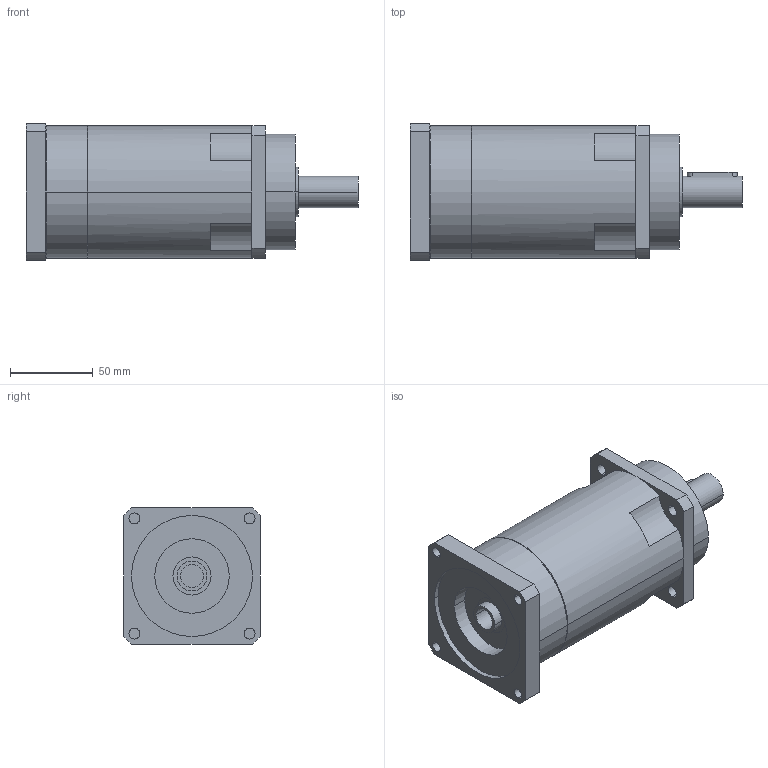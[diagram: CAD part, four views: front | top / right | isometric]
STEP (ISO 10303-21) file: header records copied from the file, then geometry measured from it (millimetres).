
FILE_DESCRIPTION(('CoCreate Modeling STEP Export'),'2;1');
FILE_NAME('GPR100_ig-48-64-80-100-120-144-180-216_19_B5_14_P05.stp','2014-08-26T11:55:01',(''),(''),'CoCreate Modeling STEP processor for AP214 (Solid Model)','CoCreate Modeling 16.00C 25-Feb-2009 (C) Parametric Technology GmbH','');
FILE_SCHEMA(('AUTOMOTIVE_DESIGN { 1 0 10303 214 1 1 1 1 }'));
Length unit declared in the file: millimetre
Products named in the file (2): GPR100_ig-48-64-80-100-120-144-180-216_19_B5_14_P05
Assembly tree (1 placements, depth 2):
  GPR100_ig-48-64-80-100-120-144-180-216_19_B5_14_P05
    GPR100_ig-48-64-80-100-120-144-180-216_19_B5_14_P05
Bounding box: 200.4 x 82.5 x 82.5 mm (x, y, z)
Volume: 797193.1 mm3; surface area: 65997.9 mm2
Topology: 1 solids, 1 shells, 89 faces, 246 edges, 168 vertices
Faces by surface type: cylinder 52, plane 31, cone 6
Entity records: 2607 total; most frequent: ORIENTED_EDGE 488, CARTESIAN_POINT 473, DIRECTION 386, EDGE_CURVE 244, VERTEX_POINT 168, AXIS2_PLACEMENT_3D 145, EDGE_LOOP 116, VECTOR 96
